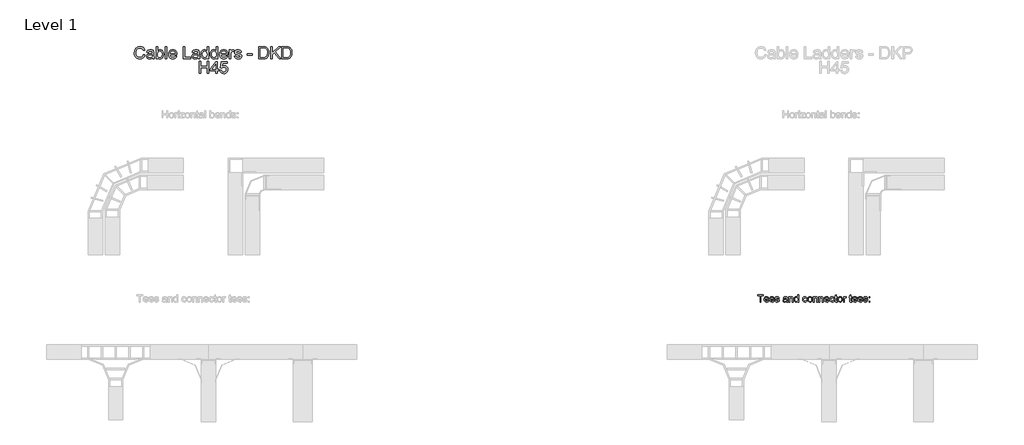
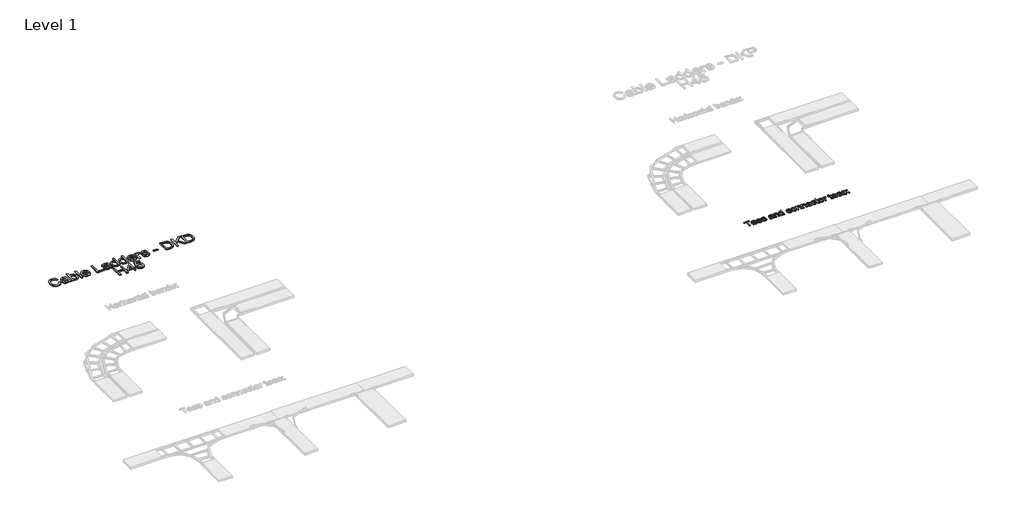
# One storey, part 81 of 106: 2 proxies.
"""IFC4 building model written with IfcOpenShell, lengths in millimetres."""

from ifc_helpers import new_model, si_unit, origin, origin_with_axes, place, context, project, spatial, polyline, outline, extrude, element, save

model = new_model("IFC4")

# Units and contexts
model_context = context("Model", 3, world=origin())
ifc_project = project(units=[si_unit("LENGTHUNIT", "METRE", prefix="MILLI")], contexts=[model_context])

# Site, building, storey
site = spatial("IfcSite", under=ifc_project)
building = spatial("IfcBuilding", under=site)
storey = spatial("IfcBuildingStorey", under=building, Name="Level 1", Elevation=0.0)

# Proxies
placement = place(None, origin())
element("IfcBuildingElementProxy", 1, Name="150mm Arial 2", ObjectType="150mm Arial 2", at=placement, inside=storey, context=model_context, shape_type="SweptSolid", body=[
    extrude(outline(polyline([(41793.3276619, 66447.8476348), (41793.3276619, 66579.6965419), (41743.8843218, 66579.6965419), (41743.8843218, 66598.5321), (41861.6065602, 66598.5321), (41861.6065602, 66579.6965419), (41812.1632201, 66579.6965419), (41812.1632201, 66447.8476348), (41793.3276619, 66447.8476348)])), origin_with_axes(), (0.0, 0.0, 1.0), 15.0),
    extrude(outline(polyline([(41957.9180666, 66480.8098615), (41976.3857427, 66478.4554168), (41969.7316771, 66464.5402803), (41959.1136831, 66454.1384169), (41944.7708838, 66447.6544967), (41926.9424026, 66445.49319), (41904.8418917, 66449.2225937), (41887.8365465, 66460.4108049), (41876.9932247, 66478.3312566), (41873.3787841, 66502.2573819), (41877.0300129, 66526.988249), (41887.9836993, 66545.4835163), (41904.7591183, 66557.0166168), (41925.8755448, 66560.8609837), (41946.3343822, 66557.0258139), (41962.6821384, 66545.5203045), (41973.4013, 66527.0618254), (41976.9743539, 66502.3677465), (41976.8639893, 66497.2909749), (41892.2143422, 66497.2909749), (41895.4746964, 66483.1918975), (41903.048467, 66472.8268223), (41913.9791608, 66466.4532667), (41927.3102846, 66464.3287482), (41945.7779607, 66468.2650855), (41957.9180666, 66480.8098615)]), holes=[polyline([(41892.2143422, 66516.1265331), (41958.1387958, 66516.1265331), (41955.5912129, 66526.0777411), (41950.5972149, 66533.1962577), (41939.6159373, 66539.8181336), (41925.8019684, 66542.0254255), (41913.105441, 66540.2641905), (41902.6070086, 66534.9804853), (41895.3091495, 66526.7445272), (41892.2143422, 66516.1265331)])]), origin_with_axes(), (0.0, 0.0, 1.0), 15.0),
    extrude(outline(polyline([(42073.2858603, 66480.8098615), (42091.7535364, 66478.4554168), (42085.0994708, 66464.5402803), (42074.4814767, 66454.1384169), (42060.1386775, 66447.6544967), (42042.3101963, 66445.49319), (42020.2096854, 66449.2225937), (42003.2043402, 66460.4108049), (41992.3610184, 66478.3312566), (41988.7465778, 66502.2573819), (41992.3978066, 66526.988249), (42003.351493, 66545.4835163), (42020.126912, 66557.0166168), (42041.2433385, 66560.8609837), (42061.7021759, 66557.0258139), (42078.0499321, 66545.5203045), (42088.7690937, 66527.0618254), (42092.3421476, 66502.3677465), (42092.231783, 66497.2909749), (42007.5821359, 66497.2909749), (42010.8424901, 66483.1918975), (42018.4162607, 66472.8268223), (42029.3469545, 66466.4532667), (42042.6780783, 66464.3287482), (42061.1457544, 66468.2650855), (42073.2858603, 66480.8098615)]), holes=[polyline([(42007.5821359, 66516.1265331), (42073.5065895, 66516.1265331), (42070.9590066, 66526.0777411), (42065.9650086, 66533.1962577), (42054.983731, 66539.8181336), (42041.1697621, 66542.0254255), (42028.4732347, 66540.2641905), (42017.9748023, 66534.9804853), (42010.6769432, 66526.7445272), (42007.5821359, 66516.1265331)])]), origin_with_axes(), (0.0, 0.0, 1.0), 15.0),
    extrude(outline(polyline([(42104.1143715, 66480.8098615), (42122.9499296, 66483.1643063), (42125.9205767, 66475.1076906), (42131.6687329, 66469.1847905), (42151.6447252, 66464.3287482), (42170.8481654, 66468.7801203), (42177.1021593, 66479.227969), (42175.5294638, 66484.028829), (42170.8113772, 66487.6892549), (42151.423996, 66493.060332), (42123.0602942, 66502.275776), (42110.6810651, 66513.0363243), (42106.4688162, 66528.2298507), (42109.8533306, 66542.2645488), (42119.0871687, 66552.988309), (42131.0617276, 66558.5617212), (42147.2669295, 66560.8609837), (42170.1859778, 66557.1637696), (42184.7541048, 66547.1573794), (42191.2288279, 66530.2532017), (42172.3932698, 66527.8987569), (42165.3115413, 66538.2914233), (42148.7384575, 66542.0254255), (42130.7122397, 66538.4569702), (42125.3043744, 66530.1428371), (42127.5484545, 66524.6613954), (42134.5750007, 66520.5043288), (42150.7985966, 66516.4944151), (42178.4449286, 66507.628459), (42191.2840102, 66497.5852805), (42195.9377174, 66481.2145317), (42190.4746698, 66463.188314), (42174.7109263, 66450.1101091), (42151.3872078, 66445.49319), (42132.3952998, 66447.7188761), (42118.5353457, 66454.3959343), (42109.2831135, 66465.4507882), (42104.1143715, 66480.8098615)])), origin_with_axes(), (0.0, 0.0, 1.0), 15.0),
    extrude(outline(polyline([(42346.6221827, 66461.9743034), (42328.3568416, 66449.2087982), (42308.1785142, 66445.49319), (42292.4377633, 66447.7280731), (42280.8264878, 66454.4327225), (42273.6665845, 66464.6138567), (42271.2799501, 66477.2781944), (42274.8851936, 66492.1774152), (42284.358155, 66502.9931459), (42297.5467245, 66509.1735634), (42313.8438969, 66512.0062547), (42346.5118181, 66518.4809779), (42346.6221827, 66522.6748326), (42345.3253986, 66531.0809362), (42341.4350465, 66536.580772), (42332.7346374, 66540.6642622), (42320.6129256, 66542.0254255), (42301.5566383, 66538.4017879), (42292.469953, 66525.5443122), (42273.6343948, 66527.8987569), (42281.782981, 66546.2928567), (42298.190518, 66557.0717991), (42323.0409468, 66560.8609837), (42345.8680246, 66557.5132575), (42358.7622885, 66549.107154), (42364.5380358, 66536.3232546), (42365.4577408, 66519.8421412), (42365.4577408, 66496.4080581), (42366.414234, 66463.6849547), (42370.1666304, 66447.8476348), (42351.3310722, 66447.8476348), (42346.6221827, 66461.9743034)]), holes=[polyline([(42346.6221827, 66499.6454197), (42316.2351299, 66493.8696724), (42300.029928, 66490.8162518), (42292.6906822, 66485.8498449), (42290.1155082, 66478.6025696), (42295.7257086, 66468.4122383), (42312.1884279, 66464.3287482), (42331.2447153, 66468.8353026), (42343.5319739, 66479.7430038), (42346.5118181, 66494.3111308), (42346.6221827, 66499.6454197)])]), origin_with_axes(), (0.0, 0.0, 1.0), 15.0),
    extrude(outline(polyline([(42391.3566333, 66447.8476348), (42391.3566333, 66558.5065389), (42410.1921914, 66558.5065389), (42410.1921914, 66543.0554951), (42424.5947715, 66556.4096116), (42444.2580642, 66560.8609837), (42462.0451587, 66557.2741342), (42474.1852645, 66547.8563552), (42479.8322531, 66534.0055981), (42480.8255345, 66515.7954393), (42480.8255345, 66447.8476348), (42461.9899764, 66447.8476348), (42461.9899764, 66513.2570535), (42459.8194726, 66529.9221079), (42452.149133, 66538.7328817), (42439.2180809, 66542.0254255), (42428.1862195, 66540.1768185), (42418.782236, 66534.6309974), (42412.3397026, 66523.9164343), (42410.1921914, 66506.5616012), (42410.1921914, 66447.8476348), (42391.3566333, 66447.8476348)])), origin_with_axes(), (0.0, 0.0, 1.0), 15.0),
    extrude(outline(polyline([(42575.0033253, 66447.8476348), (42575.0033253, 66465.6163351), (42562.5413227, 66450.5239763), (42545.3152483, 66445.49319), (42533.1383542, 66447.3142059), (42521.9915298, 66452.7772535), (42512.5553566, 66461.5006553), (42505.5104164, 66473.1027337), (42501.1234236, 66487.1144392), (42499.6610927, 66503.0667223), (42505.0505639, 66533.0491049), (42511.7828044, 66544.9408904), (42521.2005835, 66553.6872848), (42532.5911298, 66559.067559), (42545.2416719, 66560.8609837), (42562.605702, 66555.7290299), (42575.0033253, 66542.3933075), (42575.0033253, 66598.5321), (42593.8388834, 66598.5321), (42593.8388834, 66447.8476348), (42575.0033253, 66447.8476348)]), holes=[polyline([(42518.4966508, 66503.1402987), (42520.6211693, 66486.1027638), (42526.9947249, 66473.9856505), (42536.2561541, 66466.7429738), (42547.0442936, 66464.3287482), (42557.8278346, 66466.6326092), (42566.8547391, 66473.5441921), (42572.9661787, 66485.1922558), (42575.0033253, 66501.7055589), (42572.9293905, 66519.7593678), (42566.7075863, 66532.2765527), (42557.4507556, 66539.5882073), (42546.2717415, 66542.0254255), (42535.3732373, 66539.6847764), (42526.4429019, 66532.6628288), (42520.4832136, 66520.6008979), (42518.4966508, 66503.1402987)])]), origin_with_axes(), (0.0, 0.0, 1.0), 15.0),
    extrude(outline(polyline([(42751.586683, 66487.8731959), (42770.4222411, 66485.5187511), (42765.1707256, 66468.7663247), (42755.3022911, 66456.1065856), (42741.7458396, 66448.1465389), (42725.4302731, 66445.49319), (42705.3944999, 66449.1950026), (42689.7273255, 66460.3004403), (42679.6151691, 66478.3220596), (42676.2444503, 66502.7724167), (42677.6837887, 66519.5340401), (42682.0018036, 66534.0607803), (42689.267473, 66545.7916175), (42699.5497747, 66554.1655314), (42711.850829, 66559.1871206), (42725.1727557, 66560.8609837), (42741.0882505, 66558.5617212), (42753.812369, 66551.6639338), (42762.940441, 66540.5355035), (42768.0677963, 66525.5443122), (42749.2322382, 66523.1898674), (42740.4950408, 66537.2981419), (42725.3199085, 66542.0254255), (42713.147613, 66539.6985719), (42703.4861121, 66532.7180111), (42697.1815344, 66520.7066639), (42695.0800085, 66503.2874515), (42697.1355492, 66485.6337142), (42703.3021711, 66473.5809803), (42712.788928, 66466.6418062), (42724.8048737, 66464.3287482), (42734.5583451, 66465.772685), (42742.55518, 66470.1044955), (42748.372314, 66477.4345442), (42751.586683, 66487.8731959)])), origin_with_axes(), (0.0, 0.0, 1.0), 15.0),
    extrude(outline(polyline([(42782.194465, 66503.1770869), (42786.2687581, 66529.8577286), (42798.4916373, 66548.6105133), (42813.5931932, 66557.7983661), (42831.6745933, 66560.8609837), (42851.4620461, 66557.13158), (42867.2671763, 66545.9433688), (42877.627653, 66528.179267), (42881.0811453, 66504.7221912), (42879.554435, 66485.693495), (42874.9743041, 66471.2081415), (42867.47411, 66460.3602211), (42857.1872097, 66452.2438246), (42844.9689289, 66447.1808487), (42831.6745933, 66445.49319), (42811.6480172, 66449.2087982), (42795.8612811, 66460.3556226), (42785.611169, 66478.492205), (42782.194465, 66503.1770869)]), holes=[polyline([(42801.0300231, 66503.2138751), (42803.2097239, 66486.1671431), (42809.7488264, 66474.0224387), (42819.5896698, 66466.7521708), (42831.6745933, 66464.3287482), (42843.7043346, 66466.7659664), (42853.5267838, 66474.077621), (42860.0658863, 66486.3832738), (42862.2455871, 66503.8024862), (42860.0520907, 66520.3525775), (42853.4716015, 66532.331735), (42843.6353567, 66539.6020029), (42831.6745933, 66542.0254255), (42819.5896698, 66539.6112), (42809.7488264, 66532.3685232), (42803.2097239, 66520.25141), (42801.0300231, 66503.2138751)])]), origin_with_axes(), (0.0, 0.0, 1.0), 15.0),
    extrude(outline(polyline([(42902.2711482, 66447.8476348), (42902.2711482, 66558.5065389), (42921.1067063, 66558.5065389), (42921.1067063, 66543.0554951), (42935.5092865, 66556.4096116), (42955.1725791, 66560.8609837), (42972.9596736, 66557.2741342), (42985.0997794, 66547.8563552), (42990.746768, 66534.0055981), (42991.7400494, 66515.7954393), (42991.7400494, 66447.8476348), (42972.9044913, 66447.8476348), (42972.9044913, 66513.2570535), (42970.7339875, 66529.9221079), (42963.0636479, 66538.7328817), (42950.1325958, 66542.0254255), (42939.1007344, 66540.1768185), (42929.6967509, 66534.6309974), (42923.2542175, 66523.9164343), (42921.1067063, 66506.5616012), (42921.1067063, 66447.8476348), (42902.2711482, 66447.8476348)])), origin_with_axes(), (0.0, 0.0, 1.0), 15.0),
    extrude(outline(polyline([(43017.6389419, 66447.8476348), (43017.6389419, 66558.5065389), (43036.4745, 66558.5065389), (43036.4745, 66543.0554951), (43050.8770801, 66556.4096116), (43070.5403728, 66560.8609837), (43088.3274672, 66557.2741342), (43100.4675731, 66547.8563552), (43106.1145617, 66534.0055981), (43107.1078431, 66515.7954393), (43107.1078431, 66447.8476348), (43088.2722849, 66447.8476348), (43088.2722849, 66513.2570535), (43086.1017812, 66529.9221079), (43078.4314416, 66538.7328817), (43065.5003894, 66542.0254255), (43054.4685281, 66540.1768185), (43045.0645446, 66534.6309974), (43038.6220112, 66523.9164343), (43036.4745, 66506.5616012), (43036.4745, 66447.8476348), (43017.6389419, 66447.8476348)])), origin_with_axes(), (0.0, 0.0, 1.0), 15.0),
    extrude(outline(polyline([(43210.4826837, 66480.8098615), (43228.9503599, 66478.4554168), (43222.2962943, 66464.5402803), (43211.6783002, 66454.1384169), (43197.3355009, 66447.6544967), (43179.5070198, 66445.49319), (43157.4065089, 66449.2225937), (43140.4011637, 66460.4108049), (43129.5578419, 66478.3312566), (43125.9434013, 66502.2573819), (43129.5946301, 66526.988249), (43140.5483165, 66545.4835163), (43157.3237354, 66557.0166168), (43178.440162, 66560.8609837), (43198.8989994, 66557.0258139), (43215.2467556, 66545.5203045), (43225.9659172, 66527.0618254), (43229.5389711, 66502.3677465), (43229.4286065, 66497.2909749), (43144.7789594, 66497.2909749), (43148.0393136, 66483.1918975), (43155.6130842, 66472.8268223), (43166.5437779, 66466.4532667), (43179.8749017, 66464.3287482), (43198.3425779, 66468.2650855), (43210.4826837, 66480.8098615)]), holes=[polyline([(43144.7789594, 66516.1265331), (43210.7034129, 66516.1265331), (43208.1558301, 66526.0777411), (43203.161832, 66533.1962577), (43192.1805545, 66539.8181336), (43178.3665856, 66542.0254255), (43165.6700582, 66540.2641905), (43155.1716258, 66534.9804853), (43147.8737667, 66526.7445272), (43144.7789594, 66516.1265331)])]), origin_with_axes(), (0.0, 0.0, 1.0), 15.0),
    extrude(outline(polyline([(43319.0078723, 66487.8731959), (43337.8434305, 66485.5187511), (43332.591915, 66468.7663247), (43322.7234805, 66456.1065856), (43309.167029, 66448.1465389), (43292.8514625, 66445.49319), (43272.8156893, 66449.1950026), (43257.1485148, 66460.3004403), (43247.0363585, 66478.3220596), (43243.6656397, 66502.7724167), (43245.104978, 66519.5340401), (43249.4229929, 66534.0607803), (43256.6886623, 66545.7916175), (43266.9709641, 66554.1655314), (43279.2720183, 66559.1871206), (43292.5939451, 66560.8609837), (43308.5094399, 66558.5617212), (43321.2335584, 66551.6639338), (43330.3616304, 66540.5355035), (43335.4889857, 66525.5443122), (43316.6534276, 66523.1898674), (43307.9162302, 66537.2981419), (43292.7410979, 66542.0254255), (43280.5688024, 66539.6985719), (43270.9073015, 66532.7180111), (43264.6027238, 66520.7066639), (43262.5011979, 66503.2874515), (43264.5567385, 66485.6337142), (43270.7233605, 66473.5809803), (43280.2101174, 66466.6418062), (43292.2260631, 66464.3287482), (43301.9795345, 66465.772685), (43309.9763693, 66470.1044955), (43315.7935034, 66477.4345442), (43319.0078723, 66487.8731959)])), origin_with_axes(), (0.0, 0.0, 1.0), 15.0),
    extrude(outline(polyline([(43394.3501049, 66463.556196), (43396.7045497, 66447.2958118), (43382.6146693, 66445.49319), (43366.8325317, 66448.620187), (43358.959857, 66456.8239555), (43356.6789886, 66478.1978994), (43356.6789886, 66539.6709808), (43342.55232, 66539.6709808), (43342.55232, 66558.5065389), (43356.6789886, 66558.5065389), (43356.6789886, 66585.3987128), (43375.5145468, 66596.4719608), (43375.5145468, 66558.5065389), (43394.3501049, 66558.5065389), (43394.3501049, 66539.6709808), (43375.5145468, 66539.6709808), (43375.5145468, 66478.7497224), (43376.5078282, 66469.0376377), (43379.7267956, 66465.597941), (43386.1463364, 66464.3287482), (43394.3501049, 66463.556196)])), origin_with_axes(), (0.0, 0.0, 1.0), 15.0),
    extrude(outline(polyline([(43408.4767735, 66503.1770869), (43412.5510666, 66529.8577286), (43424.7739459, 66548.6105133), (43439.8755018, 66557.7983661), (43457.9569019, 66560.8609837), (43477.7443547, 66557.13158), (43493.5494849, 66545.9433688), (43503.9099616, 66528.179267), (43507.3634539, 66504.7221912), (43505.8367436, 66485.693495), (43501.2566127, 66471.2081415), (43493.7564186, 66460.3602211), (43483.4695183, 66452.2438246), (43471.2512375, 66447.1808487), (43457.9569019, 66445.49319), (43437.9303258, 66449.2087982), (43422.1435897, 66460.3556226), (43411.8934776, 66478.492205), (43408.4767735, 66503.1770869)]), holes=[polyline([(43427.3123317, 66503.2138751), (43429.4920325, 66486.1671431), (43436.031135, 66474.0224387), (43445.8719784, 66466.7521708), (43457.9569019, 66464.3287482), (43469.9866431, 66466.7659664), (43479.8090924, 66474.077621), (43486.3481949, 66486.3832738), (43488.5278957, 66503.8024862), (43486.3343993, 66520.3525775), (43479.7539101, 66532.331735), (43469.9176653, 66539.6020029), (43457.9569019, 66542.0254255), (43445.8719784, 66539.6112), (43436.031135, 66532.3685232), (43429.4920325, 66520.25141), (43427.3123317, 66503.2138751)])]), origin_with_axes(), (0.0, 0.0, 1.0), 15.0),
    extrude(outline(polyline([(43528.5534568, 66447.8476348), (43528.5534568, 66558.5065389), (43545.0345702, 66558.5065389), (43545.0345702, 66542.1357901), (43556.7332176, 66557.2189519), (43568.5054415, 66560.8609837), (43587.414576, 66555.0484482), (43581.1237939, 66538.1626646), (43567.8800421, 66542.0254255), (43557.2298583, 66538.3098174), (43550.4424355, 66528.0091215), (43547.3890149, 66506.0097782), (43547.3890149, 66447.8476348), (43528.5534568, 66447.8476348)])), origin_with_axes(), (0.0, 0.0, 1.0), 15.0),
    extrude(outline(polyline([(43698.0734802, 66463.556196), (43700.4279249, 66447.2958118), (43686.3380445, 66445.49319), (43670.5559069, 66448.620187), (43662.6832322, 66456.8239555), (43660.4023638, 66478.1978994), (43660.4023638, 66539.6709808), (43646.2756952, 66539.6709808), (43646.2756952, 66558.5065389), (43660.4023638, 66558.5065389), (43660.4023638, 66585.3987128), (43679.237922, 66596.4719608), (43679.237922, 66558.5065389), (43698.0734802, 66558.5065389), (43698.0734802, 66539.6709808), (43679.237922, 66539.6709808), (43679.237922, 66478.7497224), (43680.2312034, 66469.0376377), (43683.4501708, 66465.597941), (43689.8697117, 66464.3287482), (43698.0734802, 66463.556196)])), origin_with_axes(), (0.0, 0.0, 1.0), 15.0),
    extrude(outline(polyline([(43794.3849865, 66480.8098615), (43812.8526626, 66478.4554168), (43806.1985971, 66464.5402803), (43795.580603, 66454.1384169), (43781.2378037, 66447.6544967), (43763.4093225, 66445.49319), (43741.3088116, 66449.2225937), (43724.3034664, 66460.4108049), (43713.4601446, 66478.3312566), (43709.845704, 66502.2573819), (43713.4969328, 66526.988249), (43724.4506192, 66545.4835163), (43741.2260382, 66557.0166168), (43762.3424647, 66560.8609837), (43782.8013022, 66557.0258139), (43799.1490583, 66545.5203045), (43809.86822, 66527.0618254), (43813.4412738, 66502.3677465), (43813.3309092, 66497.2909749), (43728.6812622, 66497.2909749), (43731.9416163, 66483.1918975), (43739.5153869, 66472.8268223), (43750.4460807, 66466.4532667), (43763.7772045, 66464.3287482), (43782.2448806, 66468.2650855), (43794.3849865, 66480.8098615)]), holes=[polyline([(43728.6812622, 66516.1265331), (43794.6057157, 66516.1265331), (43792.0581329, 66526.0777411), (43787.0641348, 66533.1962577), (43776.0828572, 66539.8181336), (43762.2688883, 66542.0254255), (43749.572361, 66540.2641905), (43739.0739285, 66534.9804853), (43731.7760694, 66526.7445272), (43728.6812622, 66516.1265331)])]), origin_with_axes(), (0.0, 0.0, 1.0), 15.0),
    extrude(outline(polyline([(43909.7527802, 66480.8098615), (43928.2204563, 66478.4554168), (43921.5663907, 66464.5402803), (43910.9483967, 66454.1384169), (43896.6055974, 66447.6544967), (43878.7771162, 66445.49319), (43856.6766053, 66449.2225937), (43839.6712601, 66460.4108049), (43828.8279383, 66478.3312566), (43825.2134977, 66502.2573819), (43828.8647265, 66526.988249), (43839.8184129, 66545.4835163), (43856.5938319, 66557.0166168), (43877.7102584, 66560.8609837), (43898.1690959, 66557.0258139), (43914.516852, 66545.5203045), (43925.2360136, 66527.0618254), (43928.8090675, 66502.3677465), (43928.6987029, 66497.2909749), (43844.0490558, 66497.2909749), (43847.30941, 66483.1918975), (43854.8831806, 66472.8268223), (43865.8138744, 66466.4532667), (43879.1449982, 66464.3287482), (43897.6126743, 66468.2650855), (43909.7527802, 66480.8098615)]), holes=[polyline([(43844.0490558, 66516.1265331), (43909.9735094, 66516.1265331), (43907.4259266, 66526.0777411), (43902.4319285, 66533.1962577), (43891.4506509, 66539.8181336), (43877.636682, 66542.0254255), (43864.9401546, 66540.2641905), (43854.4417222, 66534.9804853), (43847.1438631, 66526.7445272), (43844.0490558, 66516.1265331)])]), origin_with_axes(), (0.0, 0.0, 1.0), 15.0),
    extrude(outline(polyline([(43940.5812914, 66480.8098615), (43959.4168495, 66483.1643063), (43962.3874966, 66475.1076906), (43968.1356528, 66469.1847905), (43988.1116452, 66464.3287482), (44007.3150853, 66468.7801203), (44013.5690792, 66479.227969), (44011.9963837, 66484.028829), (44007.2782971, 66487.6892549), (43987.890916, 66493.060332), (43959.5272141, 66502.275776), (43947.147985, 66513.0363243), (43942.9357361, 66528.2298507), (43946.3202505, 66542.2645488), (43955.5540886, 66552.988309), (43967.5286475, 66558.5617212), (43983.7338494, 66560.8609837), (44006.6528977, 66557.1637696), (44021.2210247, 66547.1573794), (44027.6957478, 66530.2532017), (44008.8601897, 66527.8987569), (44001.7784613, 66538.2914233), (43985.2053774, 66542.0254255), (43967.1791596, 66538.4569702), (43961.7712943, 66530.1428371), (43964.0153745, 66524.6613954), (43971.0419206, 66520.5043288), (43987.2655166, 66516.4944151), (44014.9118485, 66507.628459), (44027.7509301, 66497.5852805), (44032.4046374, 66481.2145317), (44026.9415897, 66463.188314), (44011.1778462, 66450.1101091), (43987.8541278, 66445.49319), (43968.8622198, 66447.7188761), (43955.0022656, 66454.3959343), (43945.7500334, 66465.4507882), (43940.5812914, 66480.8098615)])), origin_with_axes(), (0.0, 0.0, 1.0), 15.0),
    extrude(outline(polyline([(44058.3035298, 66539.6709808), (44058.3035298, 66558.5065389), (44077.139088, 66558.5065389), (44077.139088, 66539.6709808), (44058.3035298, 66539.6709808)])), origin_with_axes(), (0.0, 0.0, 1.0), 15.0),
    extrude(outline(polyline([(44058.3035298, 66447.8476348), (44058.3035298, 66466.6831929), (44077.139088, 66466.6831929), (44077.139088, 66447.8476348), (44058.3035298, 66447.8476348)])), origin_with_axes(), (0.0, 0.0, 1.0), 15.0),
])
element("IfcBuildingElementProxy", 2, Name="250mm Arial 3", ObjectType="250mm Arial 3", at=placement, inside=storey, context=model_context, shape_type="SweptSolid", body=[
    extrude(outline(polyline([(28977.4786825, 71592.4106539), (29008.8712794, 71584.31725), (28994.3859258, 71547.7359841), (28971.6538842, 71521.01089), (28941.7941289, 71504.6631338), (28905.9256344, 71499.2138818), (28869.5129811, 71503.3372258), (28840.5959234, 71515.7072579), (28818.4310332, 71535.8947824), (28802.2748823, 71563.4706036), (28792.4110463, 71595.8902044), (28789.1231009, 71630.6090677), (28792.8402419, 71667.2286547), (28803.9916649, 71698.8511778), (28821.9948901, 71724.472626), (28846.2674375, 71743.0889878), (28875.0542037, 71754.4243517), (28906.6000847, 71758.2028064), (28941.0200439, 71753.3130415), (28969.4772491, 71738.643747), (28991.0826521, 71715.0992993), (29004.9472048, 71683.584075), (28973.5546079, 71676.1038078), (28962.6714322, 71698.9967978), (28947.8028682, 71714.7007605), (28928.764975, 71723.7828472), (28905.3738114, 71726.8102095), (28878.4111269, 71723.4532863), (28856.2615651, 71713.3825166), (28839.4539564, 71697.6555613), (28828.5171313, 71677.3300811), (28822.5160562, 71654.3527848), (28820.5156979, 71630.6703814), (28822.8839382, 71601.6690174), (28829.9886592, 71576.5917281), (28842.0981083, 71556.3965394), (28859.4805325, 71542.0414774), (28880.3195147, 71533.4652284), (28902.7986375, 71530.6064787), (28929.0025654, 71534.4998965), (28950.8378947, 71546.1801498), (28967.3236066, 71565.5246114), (28977.4786825, 71592.4106539)])), origin_with_axes(), (0.0, 0.0, 1.0), 15.0),
    extrude(outline(polyline([(29165.834264, 71526.6824041), (29150.8354085, 71513.8218627), (29135.3920289, 71505.406562), (29119.1515717, 71500.7620518), (29101.7614832, 71499.2138818), (29075.5268984, 71502.938687), (29056.1747726, 71514.1131026), (29044.2416004, 71531.0816596), (29040.2638763, 71552.1888891), (29041.7660611, 71565.2027147), (29046.2726156, 71577.0209238), (29062.0608845, 71595.0471415), (29084.0418337, 71605.3478374), (29111.2037877, 71610.0689897), (29165.650323, 71620.8601949), (29165.834264, 71627.8499528), (29163.6729573, 71641.8601254), (29157.1890371, 71651.0265185), (29142.6883551, 71657.8323354), (29122.4855022, 71660.100941), (29103.7848342, 71658.591092), (29090.7250233, 71654.0615449), (29081.8192134, 71645.6845653), (29075.5805479, 71632.6324187), (29044.1879509, 71636.5564933), (29049.637203, 71653.7243198), (29057.7689279, 71667.2133262), (29069.3418824, 71677.5293505), (29085.1148229, 71685.1782303), (29104.405635, 71689.914711), (29126.5322042, 71691.4935379), (29147.7543968, 71690.098652), (29164.5773339, 71685.9139943), (29177.2615985, 71679.6216794), (29186.0677737, 71671.9038217), (29195.6940193, 71650.5973228), (29197.2268609, 71623.1288005), (29197.2268609, 71584.0719953), (29198.8210162, 71529.5334895), (29205.0750102, 71503.1379564), (29173.6824132, 71503.1379564), (29165.834264, 71526.6824041)]), holes=[polyline([(29165.834264, 71589.4675979), (29115.189176, 71579.8413524), (29088.1805062, 71574.7523181), (29075.9484299, 71566.4749732), (29071.6564732, 71554.3961811), (29073.9940568, 71545.0611754), (29081.0068073, 71537.4122956), (29092.5414407, 71532.3079329), (29108.4446728, 71530.6064787), (29125.3059309, 71532.4842097), (29140.2051517, 71538.1174028), (29152.2839439, 71546.4177403), (29160.6839161, 71556.2969047), (29164.4087213, 71566.4749732), (29165.650323, 71580.5771164), (29165.834264, 71589.4675979)])]), origin_with_axes(), (0.0, 0.0, 1.0), 15.0),
    extrude(outline(polyline([(29271.7842786, 71503.1379564), (29240.3916817, 71503.1379564), (29240.3916817, 71754.2787318), (29271.7842786, 71754.2787318), (29271.7842786, 71661.1432733), (29282.1079671, 71674.4215141), (29293.7652278, 71683.9059718), (29306.7560608, 71689.5966464), (29321.080466, 71691.4935379), (29337.2519453, 71689.7844195), (29352.5343766, 71684.6570642), (29366.0540399, 71676.4333687), (29376.9372156, 71665.4352299), (29391.9284069, 71635.5448178), (29397.3546663, 71598.1128248), (29391.7368017, 71556.2049342), (29384.7144709, 71539.2746982), (29374.8832078, 71525.0269351), (29363.0822431, 71513.7337243), (29350.1508078, 71505.6671451), (29336.0889017, 71500.8271976), (29320.896525, 71499.2138818), (29306.100771, 71501.2947143), (29292.9834786, 71507.5372119), (29281.5446478, 71517.9413746), (29271.7842786, 71532.5072023), (29271.7842786, 71503.1379564)]), holes=[polyline([(29271.7842786, 71596.6412968), (29273.9302569, 71570.4603615), (29280.3681918, 71552.7407121), (29296.8155827, 71536.140037), (29318.1987237, 71530.6064787), (29336.3169119, 71534.6838375), (29351.7986126, 71546.9159138), (29362.4212052, 71567.2260656), (29365.9620694, 71595.5376509), (29362.5668251, 71624.2631033), (29352.3810924, 71644.3433289), (29337.3822369, 71656.161538), (29319.5476243, 71660.100941), (29301.4294361, 71656.0235822), (29285.9477354, 71643.7915059), (29275.3251428, 71623.8492361), (29271.7842786, 71596.6412968)])]), origin_with_axes(), (0.0, 0.0, 1.0), 15.0),
    extrude(outline(polyline([(29432.6713378, 71503.1379564), (29432.6713378, 71754.2787318), (29464.0639348, 71754.2787318), (29464.0639348, 71503.1379564), (29432.6713378, 71503.1379564)])), origin_with_axes(), (0.0, 0.0, 1.0), 15.0),
    extrude(outline(polyline([(29640.2794105, 71558.075001), (29671.0588707, 71554.1509264), (29659.9687614, 71530.9590323), (29642.2721046, 71513.6225933), (29618.3674391, 71502.8160597), (29588.6533038, 71499.2138818), (29569.1747186, 71500.7678), (29551.819119, 71505.4295547), (29536.5865052, 71513.1991458), (29523.476877, 71524.0765733), (29512.9347586, 71537.759101), (29505.404674, 71553.9439928), (29500.8866232, 71572.6312485), (29499.3806063, 71593.8208682), (29500.9019516, 71615.7290074), (29505.4659876, 71635.0389801), (29513.0727143, 71651.7507861), (29523.7221317, 71665.8644256), (29536.7972709, 71677.0771622), (29551.6811633, 71685.0862598), (29568.3738088, 71689.8917184), (29586.8752075, 71691.4935379), (29604.780714, 71689.8955505), (29620.9732699, 71685.1015883), (29635.4528753, 71677.1116512), (29648.2195302, 71665.9257393), (29658.6409373, 71651.8427566), (29666.0847996, 71635.1616074), (29670.5511169, 71615.8822916), (29672.0398894, 71594.0048092), (29671.8559484, 71585.5435233), (29530.7732032, 71585.5435233), (29536.2071269, 71562.0450609), (29548.8300778, 71544.7699355), (29567.0479008, 71534.1473429), (29589.2664405, 71530.6064787), (29605.9744144, 71532.2466193), (29620.0459007, 71537.1670409), (29631.4808994, 71545.6743121), (29640.2794105, 71558.075001)]), holes=[polyline([(29530.7732032, 71616.9361202), (29640.6472925, 71616.9361202), (29636.4013211, 71633.5214669), (29628.077991, 71645.3856612), (29609.7758617, 71656.4221211), (29586.7525802, 71660.100941), (29565.5917012, 71657.1655493), (29548.0943138, 71648.359374), (29535.9312154, 71634.632777), (29530.7732032, 71616.9361202)])]), origin_with_axes(), (0.0, 0.0, 1.0), 15.0),
    extrude(outline(polyline([(29805.4584263, 71503.1379564), (29805.4584263, 71754.2787318), (29836.8510232, 71754.2787318), (29836.8510232, 71534.5305533), (29962.4214109, 71534.5305533), (29962.4214109, 71503.1379564), (29805.4584263, 71503.1379564)])), origin_with_axes(), (0.0, 0.0, 1.0), 15.0),
    extrude(outline(polyline([(30111.5362463, 71526.6824041), (30096.5373908, 71513.8218627), (30081.0940112, 71505.406562), (30064.8535539, 71500.7620518), (30047.4634655, 71499.2138818), (30021.2288807, 71502.938687), (30001.8767549, 71514.1131026), (29989.9435827, 71531.0816596), (29985.9658586, 71552.1888891), (29987.4680434, 71565.2027147), (29991.9745978, 71577.0209238), (30007.7628668, 71595.0471415), (30029.743816, 71605.3478374), (30056.90577, 71610.0689897), (30111.3523053, 71620.8601949), (30111.5362463, 71627.8499528), (30109.3749396, 71641.8601254), (30102.8910194, 71651.0265185), (30088.3903374, 71657.8323354), (30068.1874845, 71660.100941), (30049.4868164, 71658.591092), (30036.4270056, 71654.0615449), (30027.5211956, 71645.6845653), (30021.2825301, 71632.6324187), (29989.8899332, 71636.5564933), (29995.3391853, 71653.7243198), (30003.4709102, 71667.2133262), (30015.0438646, 71677.5293505), (30030.8168052, 71685.1782303), (30050.1076173, 71689.914711), (30072.2341865, 71691.4935379), (30093.4563791, 71690.098652), (30110.2793161, 71685.9139943), (30122.9635808, 71679.6216794), (30131.769756, 71671.9038217), (30141.3960016, 71650.5973228), (30142.9288432, 71623.1288005), (30142.9288432, 71584.0719953), (30144.5229985, 71529.5334895), (30150.7769924, 71503.1379564), (30119.3843955, 71503.1379564), (30111.5362463, 71526.6824041)]), holes=[polyline([(30111.5362463, 71589.4675979), (30060.8911583, 71579.8413524), (30033.8824885, 71574.7523181), (30021.6504121, 71566.4749732), (30017.3584555, 71554.3961811), (30019.696039, 71545.0611754), (30026.7087896, 71537.4122956), (30038.2434229, 71532.3079329), (30054.146655, 71530.6064787), (30071.0079131, 71532.4842097), (30085.9071339, 71538.1174028), (30097.9859261, 71546.4177403), (30106.3858983, 71556.2969047), (30110.1107035, 71566.4749732), (30111.3523053, 71580.5771164), (30111.5362463, 71589.4675979)])]), origin_with_axes(), (0.0, 0.0, 1.0), 15.0),
    extrude(outline(polyline([(30299.8918278, 71503.1379564), (30299.8918278, 71532.752457), (30290.4993406, 71518.0793303), (30279.1218235, 71507.5985256), (30265.7592764, 71501.3100427), (30250.4116995, 71499.2138818), (30230.1168761, 71502.2489082), (30211.5388353, 71511.3539876), (30195.81188, 71525.8929906), (30184.070313, 71545.229788), (30176.7586583, 71568.5826305), (30174.3214401, 71595.1697689), (30176.5670531, 71621.4273463), (30183.3038922, 71645.1404065), (30194.524293, 71664.960049), (30210.2205915, 71679.5373731), (30229.2048353, 71688.5044967), (30250.2890721, 71691.4935379), (30265.6481454, 71689.3552238), (30279.2291224, 71682.9402815), (30290.7407632, 71673.1071024), (30299.8918278, 71660.7140777), (30299.8918278, 71754.2787318), (30331.2844247, 71754.2787318), (30331.2844247, 71503.1379564), (30299.8918278, 71503.1379564)]), holes=[polyline([(30205.714037, 71595.2923962), (30209.2549012, 71566.8965047), (30219.8774939, 71546.701316), (30235.3132092, 71534.630188), (30253.2934418, 71530.6064787), (30271.2660101, 71534.446247), (30286.3108508, 71545.965552), (30296.4965836, 71565.3789915), (30299.8918278, 71592.9011632), (30296.4352699, 71622.9908447), (30286.0655962, 71643.8528196), (30270.637545, 71656.0389106), (30252.0058548, 71660.100941), (30233.8416813, 71656.199859), (30218.9577889, 71644.496613), (30209.024975, 71624.3933948), (30205.714037, 71595.2923962)])]), origin_with_axes(), (0.0, 0.0, 1.0), 15.0),
    extrude(outline(polyline([(30492.171484, 71503.1379564), (30492.171484, 71532.752457), (30482.7789968, 71518.0793303), (30471.4014796, 71507.5985256), (30458.0389326, 71501.3100427), (30442.6913556, 71499.2138818), (30422.3965322, 71502.2489082), (30403.8184914, 71511.3539876), (30388.0915362, 71525.8929906), (30376.3499691, 71545.229788), (30369.0383145, 71568.5826305), (30366.6010963, 71595.1697689), (30368.8467093, 71621.4273463), (30375.5835483, 71645.1404065), (30386.8039492, 71664.960049), (30402.5002476, 71679.5373731), (30421.4844914, 71688.5044967), (30442.5687283, 71691.4935379), (30457.9278016, 71689.3552238), (30471.5087786, 71682.9402815), (30483.0204193, 71673.1071024), (30492.171484, 71660.7140777), (30492.171484, 71754.2787318), (30523.5640809, 71754.2787318), (30523.5640809, 71503.1379564), (30492.171484, 71503.1379564)]), holes=[polyline([(30397.9936932, 71595.2923962), (30401.5345574, 71566.8965047), (30412.15715, 71546.701316), (30427.5928654, 71534.630188), (30445.5730979, 71530.6064787), (30463.5456662, 71534.446247), (30478.590507, 71545.965552), (30488.7762397, 71565.3789915), (30492.171484, 71592.9011632), (30488.714926, 71622.9908447), (30478.3452523, 71643.8528196), (30462.9172011, 71656.0389106), (30444.2855109, 71660.100941), (30426.1213374, 71656.199859), (30411.237445, 71644.496613), (30401.3046311, 71624.3933948), (30397.9936932, 71595.2923962)])]), origin_with_axes(), (0.0, 0.0, 1.0), 15.0),
    extrude(outline(polyline([(30699.7795566, 71558.075001), (30730.5590168, 71554.1509264), (30719.4689075, 71530.9590323), (30701.7722507, 71513.6225933), (30677.8675852, 71502.8160597), (30648.1534499, 71499.2138818), (30628.6748647, 71500.7678), (30611.3192651, 71505.4295547), (30596.0866513, 71513.1991458), (30582.9770231, 71524.0765733), (30572.4349047, 71537.759101), (30564.9048201, 71553.9439928), (30560.3867693, 71572.6312485), (30558.8807524, 71593.8208682), (30560.4020977, 71615.7290074), (30564.9661338, 71635.0389801), (30572.5728604, 71651.7507861), (30583.2222778, 71665.8644256), (30596.297417, 71677.0771622), (30611.1813094, 71685.0862598), (30627.8739549, 71689.8917184), (30646.3753536, 71691.4935379), (30664.2808601, 71689.8955505), (30680.473416, 71685.1015883), (30694.9530214, 71677.1116512), (30707.7196763, 71665.9257393), (30718.1410834, 71651.8427566), (30725.5849457, 71635.1616074), (30730.051263, 71615.8822916), (30731.5400355, 71594.0048092), (30731.3560945, 71585.5435233), (30590.2733493, 71585.5435233), (30595.707273, 71562.0450609), (30608.3302239, 71544.7699355), (30626.5480469, 71534.1473429), (30648.7665866, 71530.6064787), (30665.4745605, 71532.2466193), (30679.5460468, 71537.1670409), (30690.9810455, 71545.6743121), (30699.7795566, 71558.075001)]), holes=[polyline([(30590.2733493, 71616.9361202), (30700.1474386, 71616.9361202), (30695.9014672, 71633.5214669), (30687.5781371, 71645.3856612), (30669.2760078, 71656.4221211), (30646.2527263, 71660.100941), (30625.0918473, 71657.1655493), (30607.5944599, 71648.359374), (30595.4313615, 71634.632777), (30590.2733493, 71616.9361202)])]), origin_with_axes(), (0.0, 0.0, 1.0), 15.0),
    extrude(outline(polyline([(30762.9326324, 71503.1379564), (30762.9326324, 71687.5694633), (30790.4011547, 71687.5694633), (30790.4011547, 71660.284882), (30800.5485664, 71676.1038078), (30809.8989005, 71685.423485), (30829.5192735, 71691.4935379), (30845.1542583, 71689.0716481), (30861.0344978, 71681.8059787), (30850.5498609, 71653.6630061), (30828.4769412, 71660.100941), (30819.1036145, 71658.5527709), (30810.7266349, 71653.9082608), (30799.4142636, 71636.7404343), (30794.3252293, 71600.0748621), (30794.3252293, 71503.1379564), (30762.9326324, 71503.1379564)])), origin_with_axes(), (0.0, 0.0, 1.0), 15.0),
    extrude(outline(polyline([(30868.882647, 71558.075001), (30900.2752439, 71561.9990756), (30905.2263225, 71548.5713828), (30914.8065827, 71538.6998826), (30929.0773385, 71532.6298297), (30948.0999033, 71530.6064787), (30966.8925419, 71532.4612171), (30980.1056369, 71538.0254323), (30987.9231293, 71546.0881793), (30990.5289601, 71555.4385134), (30987.9078009, 71563.4399468), (30980.0443232, 71569.5406565), (30947.7320213, 71578.4924517), (30900.4591849, 71593.851525), (30888.4953559, 71601.5693827), (30879.8271364, 71611.7857723), (30874.5618253, 71623.8492361), (30872.8067216, 71637.1083163), (30878.4475789, 71660.4994798), (30893.837309, 71678.3724134), (30913.7949073, 71687.6614338), (30940.8035771, 71691.4935379), (30961.2363562, 71689.9530321), (30979.0019909, 71685.3315145), (30993.2880751, 71678.0811735), (31003.2822026, 71668.6541974), (31009.9040785, 71656.3531432), (31014.0734078, 71640.4805679), (30982.6808109, 71636.5564933), (30978.7184152, 71646.4356577), (30970.8779302, 71653.8776039), (30959.0827137, 71658.5451067), (30943.2561237, 71660.100941), (30925.2299059, 71658.6140846), (30913.2124274, 71654.1535154), (30906.4525958, 71647.7155805), (30904.1993186, 71640.2966269), (30907.9394522, 71631.1608907), (30919.6503624, 71624.2324465), (30946.689689, 71617.5492569), (30992.7669089, 71602.7726634), (31004.9376716, 71595.7062634), (31014.1653783, 71586.0340326), (31019.9825123, 71573.7253142), (31021.921557, 71558.7494513), (31019.6452872, 71543.2677507), (31012.8164776, 71528.7057551), (31001.6957115, 71516.2054314), (30986.5435718, 71506.9087468), (30968.2414425, 71501.137598), (30947.6707076, 71499.2138818), (30916.0175276, 71502.9233586), (30892.917604, 71514.0517889), (30877.4972171, 71532.4765455), (30868.882647, 71558.075001)])), origin_with_axes(), (0.0, 0.0, 1.0), 15.0),
    extrude(outline(polyline([(31139.6437955, 71577.6953741), (31139.6437955, 71609.087971), (31237.7456608, 71609.087971), (31237.7456608, 71577.6953741), (31139.6437955, 71577.6953741)])), origin_with_axes(), (0.0, 0.0, 1.0), 15.0),
    extrude(outline(polyline([(31375.0882724, 71503.1379564), (31375.0882724, 71754.2787318), (31461.7244822, 71754.2787318), (31506.544772, 71750.6612255), (31526.5636839, 71743.686796), (31543.4555988, 71732.6963214), (31560.8226947, 71713.5664576), (31573.1927268, 71689.7767553), (31580.5963519, 71661.7870668), (31583.064227, 71630.0572447), (31581.3934296, 71603.1022244), (31576.3810374, 71579.3814999), (31568.747486, 71559.1863112), (31559.213211, 71542.8078982), (31536.2818999, 71520.0298713), (31506.2688605, 71507.429913), (31465.8938115, 71503.1379564), (31375.0882724, 71503.1379564)]), holes=[polyline([(31406.4808693, 71534.5305533), (31462.0310506, 71534.5305533), (31502.4367564, 71539.0677646), (31525.7359494, 71551.8823208), (31536.6421177, 71565.470962), (31544.8351563, 71583.0603198), (31549.9625116, 71604.7270365), (31551.6716301, 71630.5477541), (31548.3223711, 71664.7607796), (31538.2745941, 71690.0220099), (31523.4290227, 71707.3737774), (31505.6863807, 71717.8584142), (31487.6295061, 71721.6292047), (31461.1726593, 71722.8861348), (31406.4808693, 71722.8861348), (31406.4808693, 71534.5305533)])]), origin_with_axes(), (0.0, 0.0, 1.0), 15.0),
    extrude(outline(polyline([(31626.2290478, 71503.1379564), (31626.2290478, 71754.2787318), (31657.6216447, 71754.2787318), (31657.6216447, 71631.3448317), (31786.380343, 71754.2787318), (31830.2809277, 71754.2787318), (31722.1849348, 71651.0265185), (31834.2050024, 71503.1379564), (31795.8226475, 71503.1379564), (31699.9280741, 71629.8119901), (31657.6216447, 71589.4675979), (31657.6216447, 71503.1379564), (31626.2290478, 71503.1379564)])), origin_with_axes(), (0.0, 0.0, 1.0), 15.0),
    extrude(outline(polyline([(31857.7494501, 71503.1379564), (31857.7494501, 71754.2787318), (31944.3856599, 71754.2787318), (31989.2059497, 71750.6612255), (32009.2248616, 71743.686796), (32026.1167765, 71732.6963214), (32043.4838724, 71713.5664576), (32055.8539045, 71689.7767553), (32063.2575296, 71661.7870668), (32065.7254047, 71630.0572447), (32064.0546073, 71603.1022244), (32059.0422151, 71579.3814999), (32051.4086637, 71559.1863112), (32041.8743886, 71542.8078982), (32018.9430776, 71520.0298713), (31988.9300382, 71507.429913), (31948.5549892, 71503.1379564), (31857.7494501, 71503.1379564)]), holes=[polyline([(31889.142047, 71534.5305533), (31944.6922282, 71534.5305533), (31985.097934, 71539.0677646), (32008.3971271, 71551.8823208), (32019.3032954, 71565.470962), (32027.496334, 71583.0603198), (32032.6236893, 71604.7270365), (32034.3328077, 71630.5477541), (32030.9835487, 71664.7607796), (32020.9357717, 71690.0220099), (32006.0902004, 71707.3737774), (31988.3475583, 71717.8584142), (31970.2906837, 71721.6292047), (31943.8338369, 71722.8861348), (31889.142047, 71722.8861348), (31889.142047, 71534.5305533)])]), origin_with_axes(), (0.0, 0.0, 1.0), 15.0),
    extrude(outline(polyline([(30137.0427313, 71198.2009118), (30137.0427313, 71449.3416872), (30168.4353282, 71449.3416872), (30168.4353282, 71347.3157472), (30301.8538651, 71347.3157472), (30301.8538651, 71449.3416872), (30333.246462, 71449.3416872), (30333.246462, 71198.2009118), (30301.8538651, 71198.2009118), (30301.8538651, 71315.9231502), (30168.4353282, 71315.9231502), (30168.4353282, 71198.2009118), (30137.0427313, 71198.2009118)])), origin_with_axes(), (0.0, 0.0, 1.0), 15.0),
    extrude(outline(polyline([(30478.4372228, 71198.2009118), (30478.4372228, 71257.062031), (30364.639059, 71257.062031), (30364.639059, 71288.4546279), (30486.285372, 71445.4176125), (30509.8298197, 71445.4176125), (30509.8298197, 71288.4546279), (30541.2224166, 71288.4546279), (30541.2224166, 71257.062031), (30509.8298197, 71257.062031), (30509.8298197, 71198.2009118), (30478.4372228, 71198.2009118)]), holes=[polyline([(30478.4372228, 71288.4546279), (30478.4372228, 71385.4528473), (30403.2666685, 71288.4546279), (30478.4372228, 71288.4546279)])]), origin_with_axes(), (0.0, 0.0, 1.0), 15.0),
    extrude(outline(polyline([(30568.690939, 71264.9101802), (30600.0835359, 71268.8342549), (30605.8470205, 71249.9879668), (30615.9024617, 71236.4912961), (30630.2038742, 71228.3748996), (30648.7052729, 71225.6694341), (30671.2073883, 71229.4325603), (30688.0686464, 71240.7219391), (30698.5992685, 71258.2346549), (30702.1094759, 71280.6677924), (30698.8215305, 71301.7903503), (30688.9576945, 71317.9465012), (30672.4413258, 71328.2012118), (30649.1957822, 71331.6194487), (30633.9670005, 71330.2552196), (30621.6352894, 71326.1625324), (30604.0076105, 71311.9990756), (30572.6150136, 71315.9231502), (30600.0835359, 71445.4176125), (30721.7298489, 71445.4176125), (30721.7298489, 71414.0250156), (30625.4673935, 71414.0250156), (30612.0397007, 71344.8632005), (30634.465174, 71358.4748343), (30657.9636364, 71363.0120456), (30687.2945614, 71357.3865168), (30711.6437509, 71340.5099303), (30728.0374923, 71314.7888474), (30733.5020728, 71282.6298297), (30728.5816511, 71251.2372328), (30713.820386, 71224.3818471), (30700.7759036, 71211.2109053), (30685.5547861, 71201.8030897), (30668.1570334, 71196.1584003), (30648.5826456, 71194.2768372), (30617.7495359, 71199.1129526), (30593.1857485, 71213.6212987), (30576.347483, 71236.1157499), (30568.690939, 71264.9101802)])), origin_with_axes(), (0.0, 0.0, 1.0), 15.0),
])

save(model, "model.ifc")
